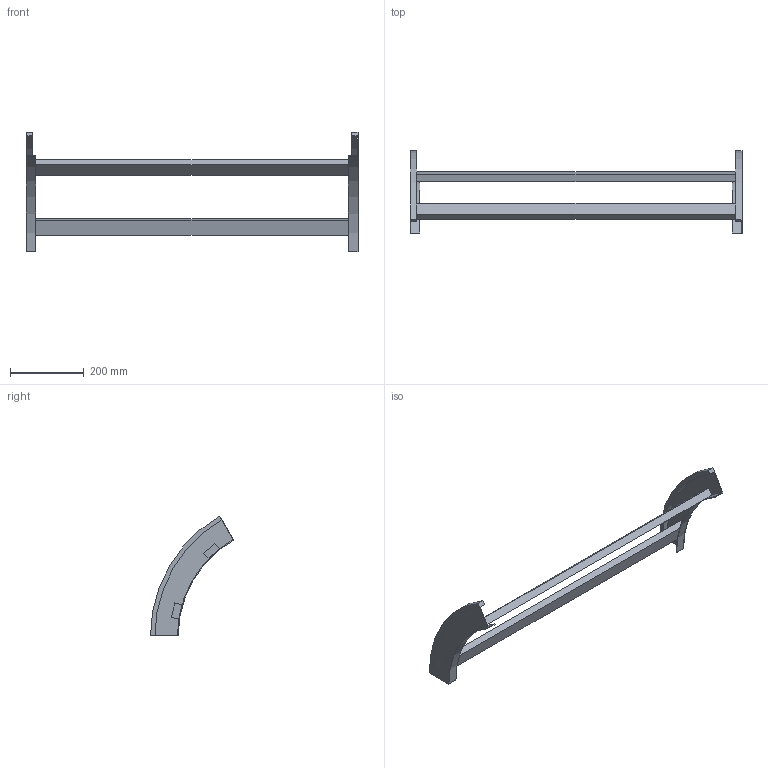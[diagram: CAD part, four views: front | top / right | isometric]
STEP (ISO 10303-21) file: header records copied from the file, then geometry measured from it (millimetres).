
FILE_DESCRIPTION (( 'STEP AP214' ), '1' );
FILE_NAME ('B2_41B3C900.step', '2025-02-21T15:00:53', ( '' ), ( '' ), 'SwSTEP 2.0', 'SolidWorks 2023', '' );
FILE_SCHEMA (( 'AUTOMOTIVE_DESIGN' ));
Length unit declared in the file: millimetre
Products named in the file (3): B2_41B3C900; B2_LONGH.DISCESA_60°_H75_R300; TRAVERSINO_900
Assembly tree (4 placements, depth 2):
  B2_41B3C900
    B2_LONGH.DISCESA_60°_H75_R300  x2
    TRAVERSINO_900  x2
Bounding box: 900 x 225 x 324.76 mm (x, y, z)
Volume: 1737453.1 mm3; surface area: 386747.4 mm2
Topology: 4 solids, 4 shells, 32 faces, 72 edges, 48 vertices
Faces by surface type: plane 24, cylinder 8
Entity records: 552 total; most frequent: DIRECTION 90, CARTESIAN_POINT 83, ORIENTED_EDGE 72, EDGE_CURVE 36, AXIS2_PLACEMENT_3D 31, VECTOR 28, LINE 28, VERTEX_POINT 24
